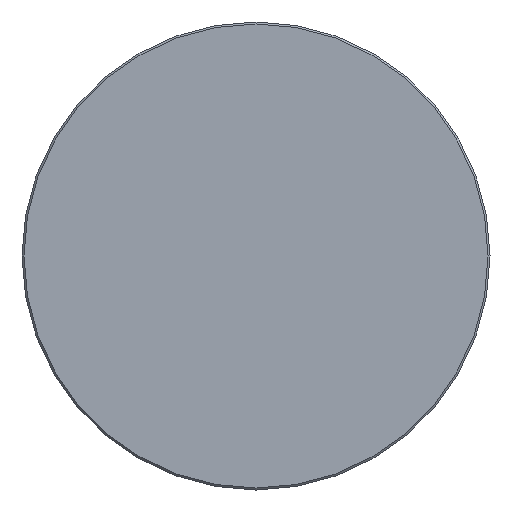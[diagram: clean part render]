
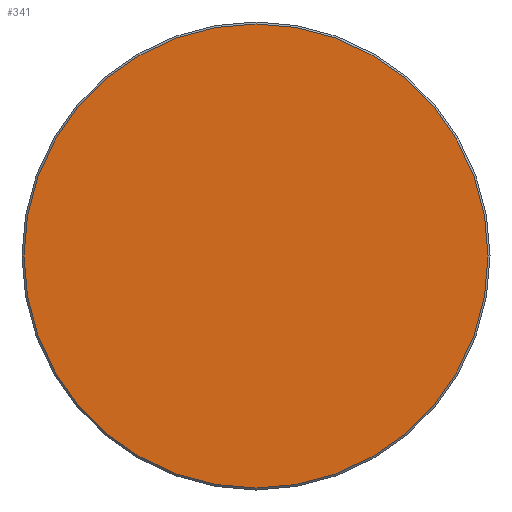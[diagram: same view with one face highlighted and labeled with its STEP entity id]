
A CAD part, left-side view. The second image highlights one B-rep face of the part: STEP entity #341.
In plain terms, the highlighted planar face has unit normal (-1, 0, 0).
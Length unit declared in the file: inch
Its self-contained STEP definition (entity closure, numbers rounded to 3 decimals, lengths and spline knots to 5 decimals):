
#4 = DIRECTION ( 'NONE',  ( -1., 0., 0. ) ) ;
#10 = DIRECTION ( 'NONE',  ( 0., -1., 0. ) ) ;
#15 = FACE_OUTER_BOUND ( 'NONE', #331, .T. ) ;
#31 = ORIENTED_EDGE ( 'NONE', *, *, #96, .T. ) ;
#62 = CIRCLE ( 'NONE', #360, 0.46475 ) ;
#73 = DIRECTION ( 'NONE',  ( 0., -1., 0. ) ) ;
#92 = PLANE ( 'NONE',  #290 ) ;
#93 = VERTEX_POINT ( 'NONE', #215 ) ;
#96 = EDGE_CURVE ( 'NONE', #93, #339, #261, .T. ) ;
#140 = DIRECTION ( 'NONE',  ( 0., -1., 0. ) ) ;
#183 = DIRECTION ( 'NONE',  ( -1., 0., 0. ) ) ;
#215 = CARTESIAN_POINT ( 'NONE',  ( 0., 0.46475, 0. ) ) ;
#231 = CARTESIAN_POINT ( 'NONE',  ( 0., -0.46475, 0. ) ) ;
#261 = CIRCLE ( 'NONE', #272, 0.46475 ) ;
#272 = AXIS2_PLACEMENT_3D ( 'NONE', #342, #183, #73 ) ;
#285 = ORIENTED_EDGE ( 'NONE', *, *, #381, .T. ) ;
#286 = DIRECTION ( 'NONE',  ( -1., 0., 0. ) ) ;
#289 = CARTESIAN_POINT ( 'NONE',  ( 0., 0., 0. ) ) ;
#290 = AXIS2_PLACEMENT_3D ( 'NONE', #289, #4, #10 ) ;
#323 = CARTESIAN_POINT ( 'NONE',  ( 0., 0., 0. ) ) ;
#331 = EDGE_LOOP ( 'NONE', ( #31, #285 ) ) ;
#339 = VERTEX_POINT ( 'NONE', #231 ) ;
#341 = ADVANCED_FACE ( 'NONE', ( #15 ), #92, .T. ) ;
#342 = CARTESIAN_POINT ( 'NONE',  ( 0., 0., 0. ) ) ;
#360 = AXIS2_PLACEMENT_3D ( 'NONE', #323, #286, #140 ) ;
#381 = EDGE_CURVE ( 'NONE', #339, #93, #62, .T. ) ;
